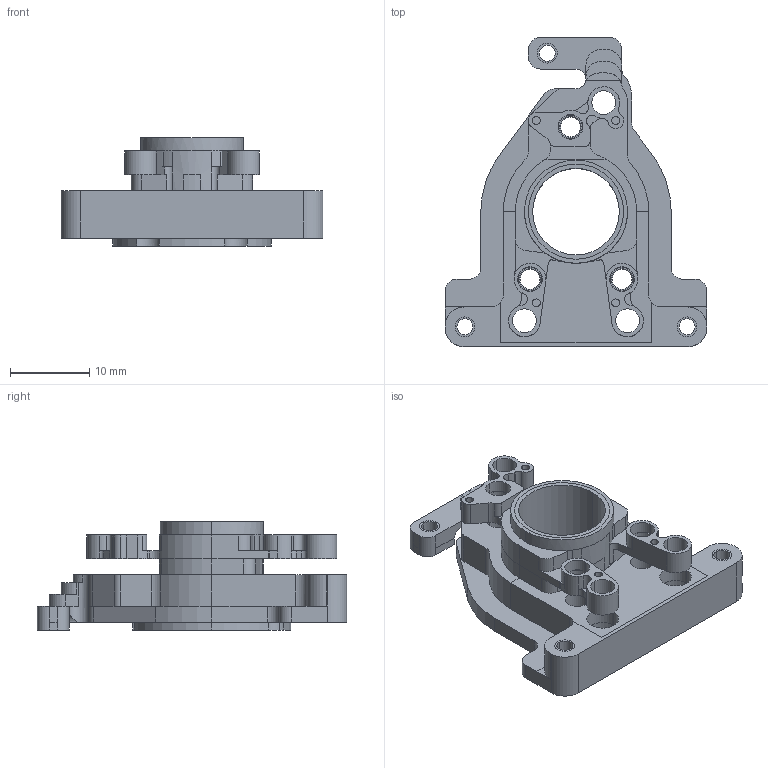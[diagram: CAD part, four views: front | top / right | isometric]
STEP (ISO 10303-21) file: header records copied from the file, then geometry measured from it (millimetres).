
FILE_DESCRIPTION(/* description */ ('(C) Elphel, Inc. 2012. Licensed under CERN OHL v.1.1 or later, see http://ohwr.org/cernohl'),/* implementation_level */ '2;1');
FILE_NAME(/* name */ '0353-19-64D',/* time_stamp */ '2012-03-09T13:16:40-07:00',/* author */ (''),/* organization */ ('Elphel, Inc'),/* preprocessor_version */ 'ST-DEVELOPER v12',/* originating_system */ 'VariCAD 2012-1.04; kernel version (20100102)',/* authorisation */ '');
FILE_SCHEMA (('AUTOMOTIVE_DESIGN'));
Length unit declared in the file: millimetre
Products named in the file (1): Part
Bounding box: 33 x 39 x 13.65 mm (x, y, z)
Volume: 3894.1 mm3; surface area: 5379.3 mm2
Topology: 5 solids, 5 shells, 335 faces, 878 edges, 561 vertices
Faces by surface type: cylinder 191, plane 118, cone 26
Entity records: 12964 total; most frequent: DIRECTION 1976, CARTESIAN_POINT 1836, ORIENTED_EDGE 1756, EDGE_CURVE 878, AXIS2_PLACEMENT_3D 766, VERTEX_POINT 561, LINE 444, VECTOR 444
